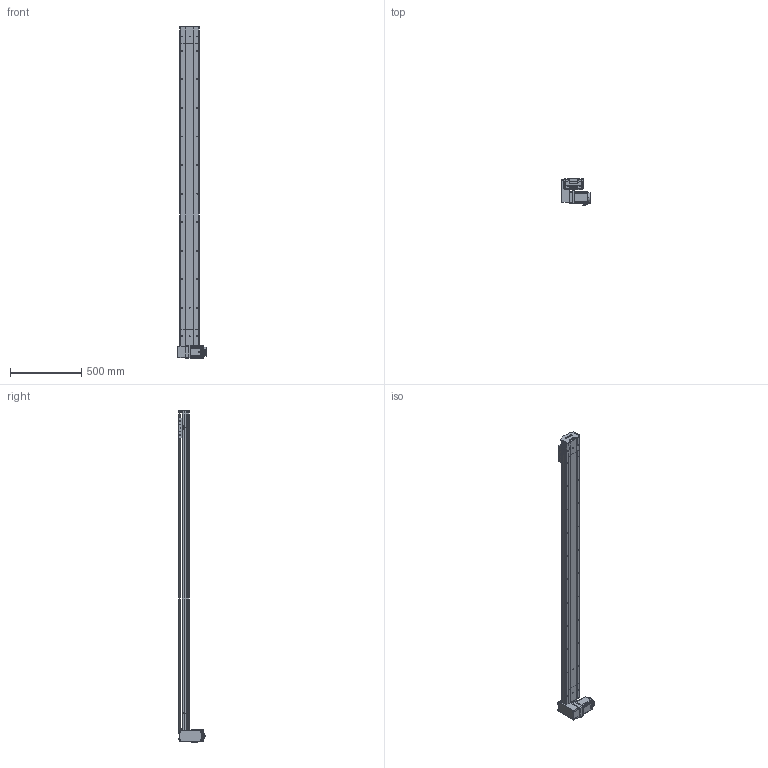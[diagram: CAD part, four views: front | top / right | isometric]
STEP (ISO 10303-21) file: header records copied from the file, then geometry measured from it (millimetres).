
FILE_DESCRIPTION (( 'STEP AP214' ), '1' );
FILE_NAME ('D14 TBH RU S2000.STEP', '2010-06-29T14:14:31', ( 'Conseil Régional Haute-Normandie' ), ( 'Conseil Régional Haute-Normandie' ), 'SwSTEP 2.0', 'SolidWorks 2010', '' );
FILE_SCHEMA (( 'AUTOMOTIVE_DESIGN' ));
Length unit declared in the file: millimetre
Products named in the file (39): D14 TB H RU_Default; Couroie_Default; corp head D14_Default; plaque de  bout head D14 RU_Default; Arbre+rail head D14; poulie head_Default; couroie 2_Default; couvercle D14 head_Default; corpl tail D14_Default; plaque de  bout tail D14_Default; Chariot D14; chariot D14B_Default; Cvis M5 L70_Default; Vis M5 L16-2_Default; Cache_Default; Plaque racord D14_Default; Conecteur_Default; vis M5 L5_Default; renvoi RH_Default; Cache arbre_Default; Conecteur2_Default; codeur 90BLDC100-640; corps 90BLDC100A-640; avant 90BLDC100A-640; Moteur motionking 90BLDC100A-640; D14 couroie L2000_Default; corpl 2000_Default; tete d''axe haut D14; vis M5 L16_Default; Arbre+rail tail D14; Rail + couroie D14 Course 2000 ; couvercle D14_Default; vis M5 L8 90°_Default; guide D14; vis M5 L12_Default; D14 TBH RU S2000; Tail D14B_Default; poulie tail_Default; couvercle D14 course L2000_Default
Assembly tree (68 placements, depth 4):
  D14 TBH RU S2000
    Tail D14B_Default
      Couroie_Default
      poulie tail_Default
      Arbre+rail tail D14
      vis M5 L8 90°_Default  x2
      vis M5 L12_Default  x4
      couvercle D14_Default
      tete d''axe haut D14
      vis M5 L16_Default  x2
      corpl tail D14_Default
      plaque de  bout tail D14_Default
    D14 TB H RU_Default
      Cache_Default  x2
      Arbre+rail head D14
      vis M5 L12_Default  x12
      Vis M5 L16-2_Default  x4
      Cvis M5 L70_Default  x4
      plaque de  bout head D14 RU_Default
      poulie head_Default
      renvoi RH_Default
      couvercle D14 head_Default
      corp head D14_Default
      couroie 2_Default
      Moteur motionking 90BLDC100A-640
        Conecteur_Default
        avant 90BLDC100A-640
        corps 90BLDC100A-640
        Conecteur2_Default
        codeur 90BLDC100-640
      Plaque racord D14_Default
      vis M5 L5_Default  x2
      Cache arbre_Default
    D14 couroie L2000_Default
      corpl 2000_Default
      Rail + couroie D14 Course 2000 
      couvercle D14 course L2000_Default
    chariot D14B_Default
      vis M5 L12_Default  x4
      guide D14  x2
      Chariot D14
Bounding box: 207.2 x 191.1 x 2325.75 mm (x, y, z)
Volume: 9125256.6 mm3; surface area: 3207618.2 mm2
Topology: 92 solids, 92 shells, 2693 faces, 6575 edges, 4242 vertices
Faces by surface type: plane 1605, cylinder 775, bspline 136, torus 89, cone 84, sphere 4
Entity records: 81044 total; most frequent: CARTESIAN_POINT 23849, ORIENTED_EDGE 10010, DIRECTION 9864, EDGE_CURVE 5005, LINE 3322, VECTOR 3322, VERTEX_POINT 3292, AXIS2_PLACEMENT_3D 3271
